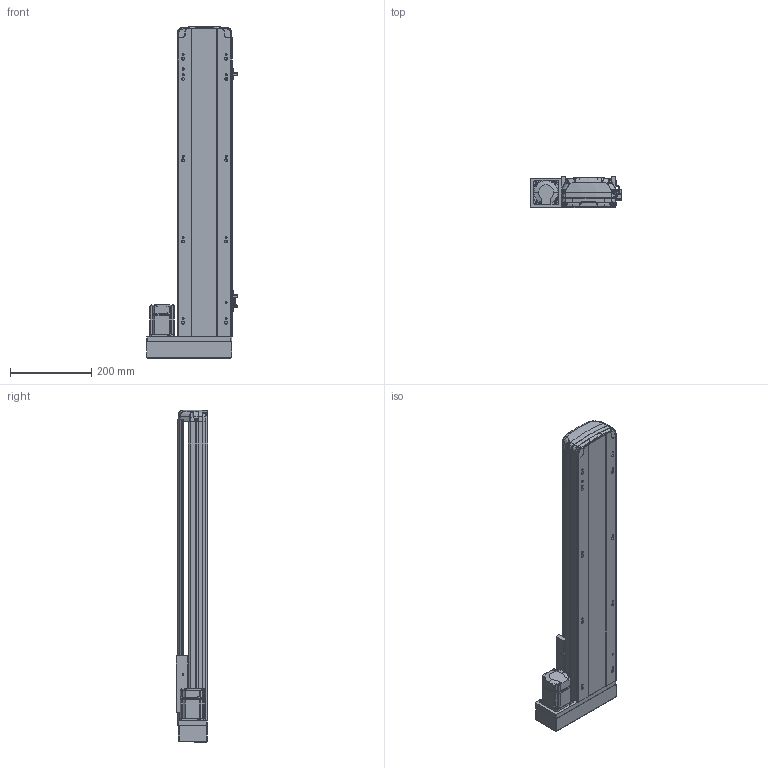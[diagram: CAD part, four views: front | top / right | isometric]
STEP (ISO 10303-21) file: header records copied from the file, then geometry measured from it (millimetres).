
FILE_DESCRIPTION (( 'STEP AP214' ), '1' );
FILE_NAME ('RTH14-XX-550-L-M20-C4.STEP', '2025-10-25T02:38:15', ( 'Microsoft' ), ( 'Microsoft' ), 'SwSTEP 2.0', 'SolidWorks 2018', '' );
FILE_SCHEMA (( 'AUTOMOTIVE_DESIGN' ));
Length unit declared in the file: millimetre
Products named in the file (10): N_OMRON EE-SX672 传感器^RTH14-XX-XX-L-M20-C4; N_RTH13-L-012感应片（外置）^RTH14-XX-XX-L-M20-C4; RTH14-XX-550-L-M20-C4; N_RTH14-R-004-SFSR16賑釱^RTH14-XX-XX-L-M20-C4; N_RTH14-M-007P奻裔^RTH14-XX-XX-L-M20-C4; N_RTH13-L-008-P20 萇儂啣酘蛌殏^RTH14-XX-XX-L-M20-C4; N_MSMD022P1AA_200W^RTH14-XX-XX-L-M20-C4; N_RTH14-M-011P菁釱^RTH14-XX-XX-L-M20-C4; N_RTH14-GY-001P^RTH14-XX-XX-L-M20-C4; N_RTH13-L-018 裔赽^RTH14-XX-XX-L-M20-C4
Assembly tree (11 placements, depth 2):
  RTH14-XX-550-L-M20-C4
    N_RTH14-M-011P菁釱^RTH14-XX-XX-L-M20-C4
    N_RTH14-M-007P奻裔^RTH14-XX-XX-L-M20-C4
    N_MSMD022P1AA_200W^RTH14-XX-XX-L-M20-C4
    N_RTH13-L-008-P20 萇儂啣酘蛌殏^RTH14-XX-XX-L-M20-C4
    N_RTH13-L-018 裔赽^RTH14-XX-XX-L-M20-C4
    N_RTH13-L-012感应片（外置）^RTH14-XX-XX-L-M20-C4
    N_OMRON EE-SX672 传感器^RTH14-XX-XX-L-M20-C4  x3
    N_RTH14-GY-001P^RTH14-XX-XX-L-M20-C4
    N_RTH14-R-004-SFSR16賑釱^RTH14-XX-XX-L-M20-C4
Bounding box: 224 x 78.03 x 817.37 mm (x, y, z)
Volume: 3766255.2 mm3; surface area: 884128 mm2
Topology: 11 solids, 11 shells, 1868 faces, 5219 edges, 3418 vertices
Faces by surface type: plane 989, cylinder 485, bspline 345, cone 45, torus 4
Entity records: 56981 total; most frequent: CARTESIAN_POINT 22997, ORIENTED_EDGE 7506, DIRECTION 6018, EDGE_CURVE 3753, VERTEX_POINT 2454, VECTOR 2154, LINE 2154, AXIS2_PLACEMENT_3D 1932
